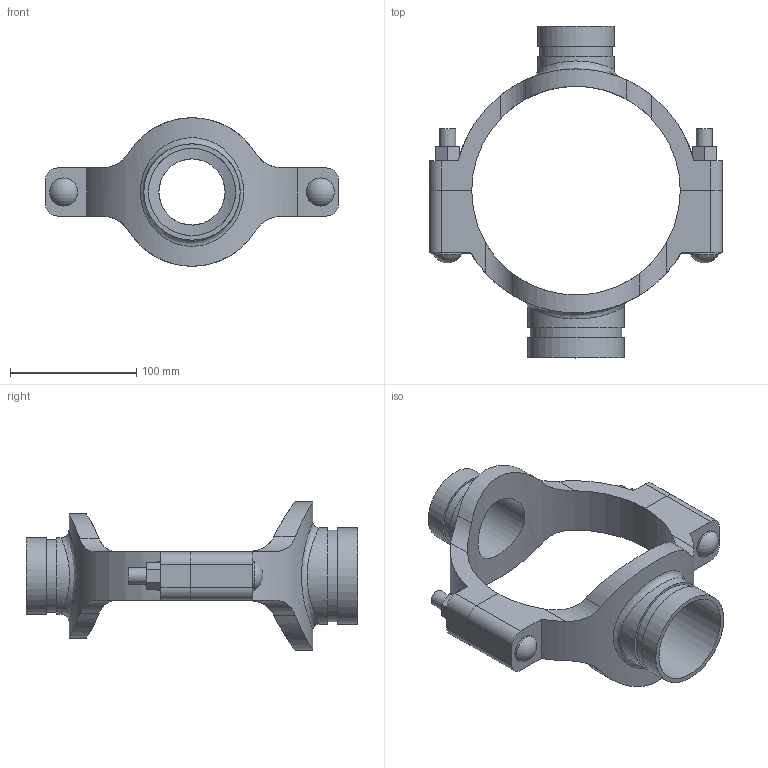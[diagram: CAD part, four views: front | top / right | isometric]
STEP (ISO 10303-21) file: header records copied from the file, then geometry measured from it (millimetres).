
FILE_DESCRIPTION(/* description */ ('VIC MECH-T BRANCH OUTLET CROSS STYLE 920N (GRVD)','CAx-IF Rec.Pracs.---Representation and Presentation of Product Manufacturing Information (PMI)---4.0---2014-10-13'),/* implementation_level */ '2;1');
FILE_NAME(/* name */ 'C:\Users\Vjadhav\AppData\Roaming\Autodesk\ApplicationPlugins\Back Up\Victaulic_IPS_Mechanical-Cross Outlet_Style 920N (OGS)\Victaulic_IPS_Mechanical-Cross Outlet_06.0 (165.1)x02.0x02.5 (76.1) (150x50x65).stp',/* time_stamp */ '2020-08-06T19:45:24+05:00',/* author */ ('Vjadhav'),/* organization */ ('Victaulic'),/* preprocessor_version */ 'ST-DEVELOPER v17.2',/* originating_system */ 'Autodesk Inventor 2019',/* authorisation */ '');
FILE_SCHEMA (('AP242_MANAGED_MODEL_BASED_3D_ENGINEERING_MIM_LF { 1 0 10303 442 1 1 4 }'));
Length unit declared in the file: inch
Products named in the file (3): 920NG-06.0 (165.1)x02.0x02.5 (76.1); 920NG-06.0 (165.1)x02.0x02.5; 920G-06.0 (165.1)x02.5 (76.1)
Assembly tree (2 placements, depth 2):
  920NG-06.0 (165.1)x02.0x02.5 (76.1)
    920NG-06.0 (165.1)x02.0x02.5
    920G-06.0 (165.1)x02.5 (76.1)
Bounding box: 231.9 x 262.64 x 117.6 mm (x, y, z)
Volume: 534409.9 mm3; surface area: 139407.6 mm2
Topology: 2 solids, 2 shells, 106 faces, 268 edges, 182 vertices
Faces by surface type: plane 54, cylinder 48, sphere 2, bspline 2
Full cylindrical faces by diameter (mm): 12.7 x4, 22.225 x2, 52.387 x1, 57.15 x1, 60.325 x2, 68.986 x1, 72.263 x1, 76.2 x2
Entity records: 4330 total; most frequent: CARTESIAN_POINT 1503, DIRECTION 542, ORIENTED_EDGE 536, EDGE_CURVE 268, AXIS2_PLACEMENT_3D 197, VERTEX_POINT 182, LINE 148, VECTOR 148
